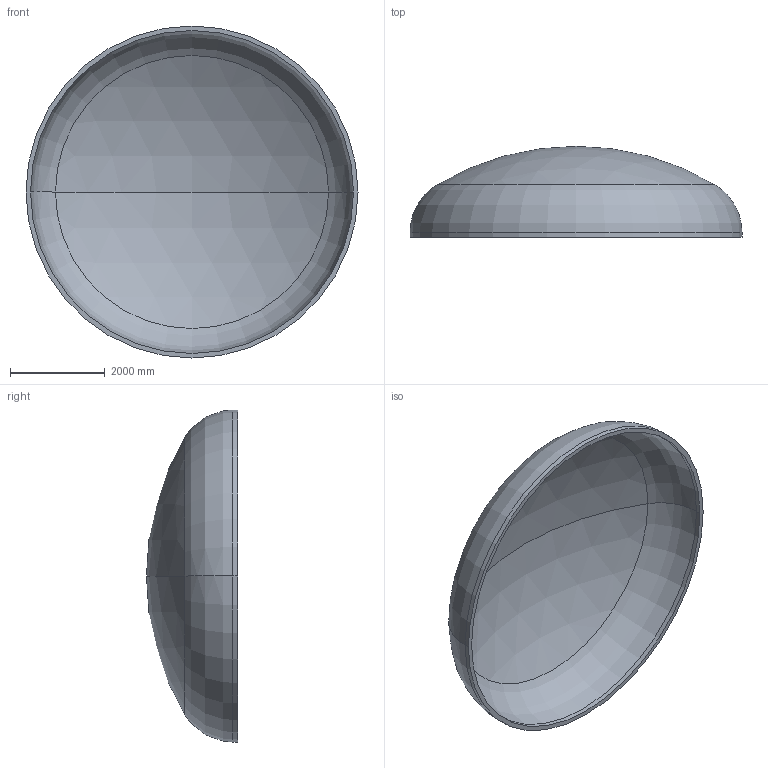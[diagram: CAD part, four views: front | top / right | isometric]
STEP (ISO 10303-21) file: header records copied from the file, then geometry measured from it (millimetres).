
FILE_DESCRIPTION (( 'STEP AP203' ), '1' );
FILE_NAME ('DIN 28013 Korbbogenform_-_Boden DIN 28013 - 7000 x 100 - I - s=96.step', '2016-07-04T10:49:53', ( '' ), ( '' ), 'SwSTEP 2.0', 'SolidWorks 2013', '' );
FILE_SCHEMA (( 'CONFIG_CONTROL_DESIGN' ));
Length unit declared in the file: millimetre
Products named in the file (1): DIN 28013 Korbbogenform_-_Boden DIN 28013 - 7000 x 100 - I - s=96
Bounding box: 7000 x 1919.22 x 7000 mm (x, y, z)
Volume: 5235012235.1 mm3; surface area: 111164212.8 mm2
Topology: 1 solids, 1 shells, 13 faces, 24 edges, 14 vertices
Faces by surface type: torus 4, cylinder 4, sphere 4, plane 1
Entity records: 407 total; most frequent: DIRECTION 72, CARTESIAN_POINT 52, ORIENTED_EDGE 48, AXIS2_PLACEMENT_3D 34, EDGE_CURVE 24, CIRCLE 20, VERTEX_POINT 14, EDGE_LOOP 14
